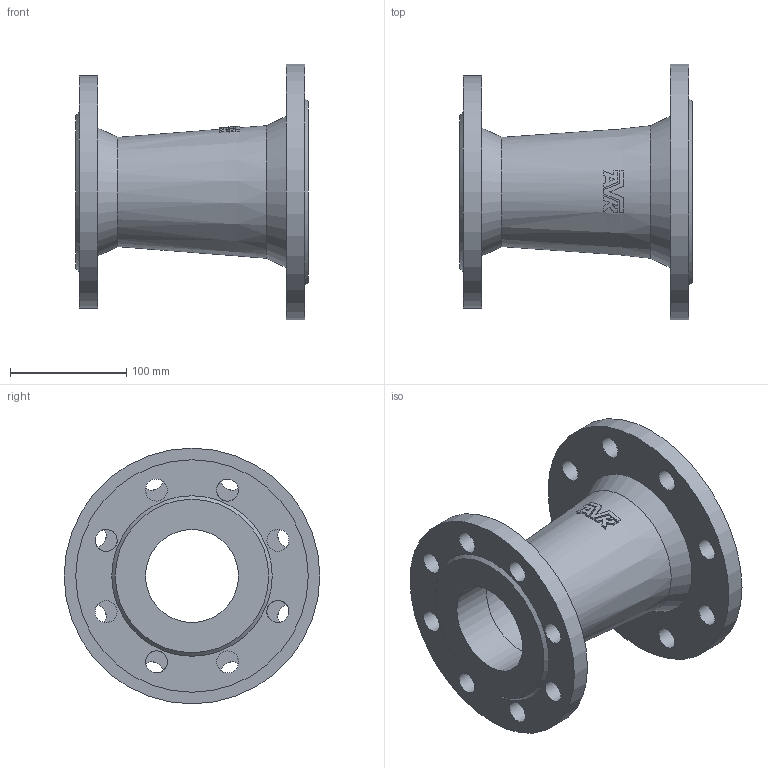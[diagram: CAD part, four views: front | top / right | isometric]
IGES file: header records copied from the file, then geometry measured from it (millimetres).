
Start section: SolidWorks IGES file using analytic representation for surfaces
Global section: file name: \\avksan2\techshare\PBM outline export from Enovia\O_712_2210_DN100_DN80_1X_REV01.igs; native system: SolidWorks 2022; preprocessor: SolidWorks 2022; author: pbm; date: 240814.135332; units: millimetre
Bounding box: 200 x 220 x 220 mm (x, y, z)
Surface area: 243926.1 mm2 (no closed solid volume)
Topology: 0 solids, 0 shells, 81 faces, 420 edges, 393 vertices
Faces by surface type: bspline 49, revolution 32
